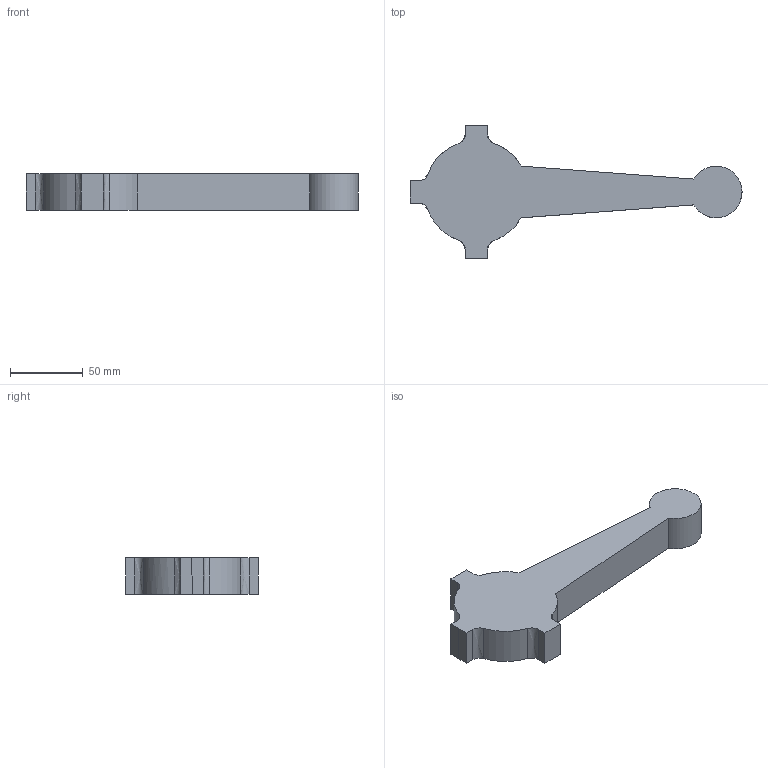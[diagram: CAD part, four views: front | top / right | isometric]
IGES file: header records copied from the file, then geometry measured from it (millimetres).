
Global section: file name: c-rod.igs; native system: ANSYS; preprocessor:   5.7      UP20001116; date: 001212.103721
Bounding box: 228.6 x 91.44 x 25.4 mm (x, y, z)
Volume: 215801.9 mm3; surface area: 31597.5 mm2
Topology: 1 solids, 1 shells, 26 faces, 76 edges, 52 vertices
Faces by surface type: bspline 26
